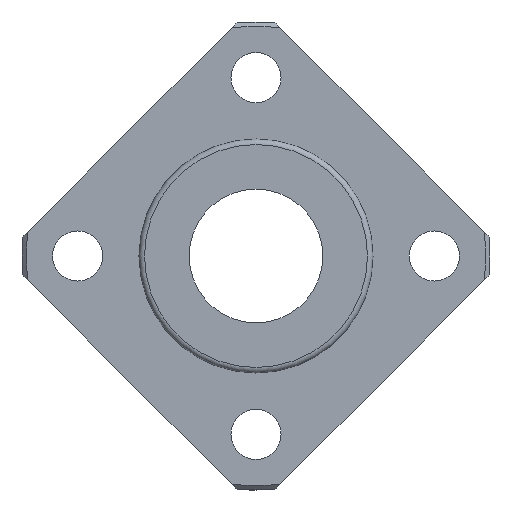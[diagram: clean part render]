
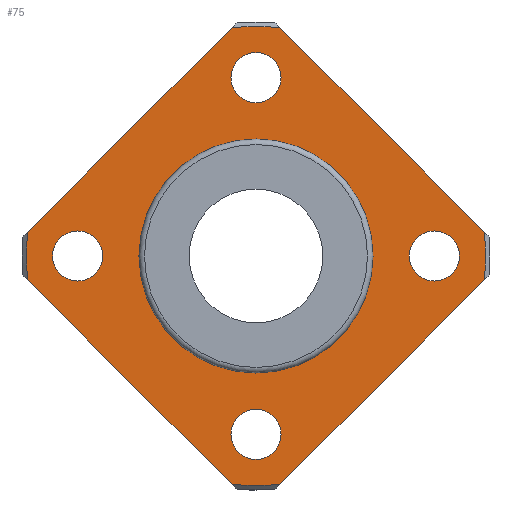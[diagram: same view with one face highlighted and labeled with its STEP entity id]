
A CAD part, left-side view. The second image highlights one B-rep face of the part: STEP entity #75.
In plain terms, the highlighted planar face has unit normal (-1, 0, 0).
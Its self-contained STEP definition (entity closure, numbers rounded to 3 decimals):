
#75=ADVANCED_FACE('',(#112,#113,#114,#115,#116,#117),#118,.T.);
#112=FACE_OUTER_BOUND('',#212,.T.);
#113=FACE_BOUND('',#213,.T.);
#114=FACE_BOUND('',#214,.T.);
#115=FACE_BOUND('',#215,.T.);
#116=FACE_BOUND('',#216,.T.);
#117=FACE_BOUND('',#217,.T.);
#118=PLANE('',#218);
#212=EDGE_LOOP('',(#312,#313,#314,#315,#316,#317,#318,#319));
#213=EDGE_LOOP('',(#320));
#214=EDGE_LOOP('',(#321));
#215=EDGE_LOOP('',(#322));
#216=EDGE_LOOP('',(#323));
#217=EDGE_LOOP('',(#324));
#218=AXIS2_PLACEMENT_3D('',#325,#326,#327);
#312=ORIENTED_EDGE('',*,*,#562,.T.);
#313=ORIENTED_EDGE('',*,*,#563,.T.);
#314=ORIENTED_EDGE('',*,*,#564,.T.);
#315=ORIENTED_EDGE('',*,*,#565,.T.);
#316=ORIENTED_EDGE('',*,*,#566,.T.);
#317=ORIENTED_EDGE('',*,*,#567,.T.);
#318=ORIENTED_EDGE('',*,*,#568,.T.);
#319=ORIENTED_EDGE('',*,*,#569,.T.);
#320=ORIENTED_EDGE('',*,*,#570,.F.);
#321=ORIENTED_EDGE('',*,*,#571,.T.);
#322=ORIENTED_EDGE('',*,*,#572,.T.);
#323=ORIENTED_EDGE('',*,*,#573,.T.);
#324=ORIENTED_EDGE('',*,*,#574,.T.);
#325=CARTESIAN_POINT('',(-6.0,15.375,0.0));
#326=DIRECTION('',(-1.0,0.0,0.));
#327=DIRECTION('',(0.,0.0,1.0));
#562=EDGE_CURVE('',#633,#634,#635,.T.);
#563=EDGE_CURVE('',#634,#636,#637,.T.);
#564=EDGE_CURVE('',#636,#638,#639,.T.);
#565=EDGE_CURVE('',#638,#640,#641,.T.);
#566=EDGE_CURVE('',#640,#642,#643,.T.);
#567=EDGE_CURVE('',#642,#644,#645,.T.);
#568=EDGE_CURVE('',#644,#646,#647,.T.);
#569=EDGE_CURVE('',#646,#633,#648,.T.);
#570=EDGE_CURVE('',#649,#649,#650,.T.);
#571=EDGE_CURVE('',#651,#651,#652,.T.);
#572=EDGE_CURVE('',#653,#653,#654,.T.);
#573=EDGE_CURVE('',#655,#655,#656,.T.);
#574=EDGE_CURVE('',#657,#657,#658,.T.);
#633=VERTEX_POINT('',#759);
#634=VERTEX_POINT('',#760);
#635=LINE('',#761,#762);
#636=VERTEX_POINT('',#763);
#637=CIRCLE('',#764,20.6);
#638=VERTEX_POINT('',#765);
#639=LINE('',#766,#767);
#640=VERTEX_POINT('',#768);
#641=CIRCLE('',#769,20.6);
#642=VERTEX_POINT('',#770);
#643=LINE('',#771,#772);
#644=VERTEX_POINT('',#773);
#645=CIRCLE('',#774,20.6);
#646=VERTEX_POINT('',#775);
#647=LINE('',#776,#777);
#648=CIRCLE('',#778,20.6);
#649=VERTEX_POINT('',#779);
#650=CIRCLE('',#780,10.15);
#651=VERTEX_POINT('',#781);
#652=CIRCLE('',#782,2.25);
#653=VERTEX_POINT('',#783);
#654=CIRCLE('',#784,2.25);
#655=VERTEX_POINT('',#785);
#656=CIRCLE('',#786,2.25);
#657=VERTEX_POINT('',#787);
#658=CIRCLE('',#788,2.25);
#759=CARTESIAN_POINT('',(-6.0,-2.139,-20.489));
#760=CARTESIAN_POINT('',(-6.0,-20.489,-2.139));
#761=CARTESIAN_POINT('',(-6.0,-12.279,-10.349));
#762=VECTOR('',#1045,1.0);
#763=CARTESIAN_POINT('',(-6.0,-20.489,2.139));
#764=AXIS2_PLACEMENT_3D('',#1046,#1047,#1048);
#765=CARTESIAN_POINT('',(-6.0,-2.139,20.489));
#766=CARTESIAN_POINT('',(-6.0,-12.279,10.349));
#767=VECTOR('',#1049,1.0);
#768=CARTESIAN_POINT('',(-6.0,2.139,20.489));
#769=AXIS2_PLACEMENT_3D('',#1050,#1051,#1052);
#770=CARTESIAN_POINT('',(-6.0,20.489,2.139));
#771=CARTESIAN_POINT('',(-6.0,19.966,2.661));
#772=VECTOR('',#1053,1.0);
#773=CARTESIAN_POINT('',(-6.0,20.489,-2.139));
#774=AXIS2_PLACEMENT_3D('',#1054,#1055,#1056);
#775=CARTESIAN_POINT('',(-6.0,2.139,-20.489));
#776=CARTESIAN_POINT('',(-6.0,19.966,-2.661));
#777=VECTOR('',#1057,1.0);
#778=AXIS2_PLACEMENT_3D('',#1058,#1059,#1060);
#779=CARTESIAN_POINT('',(-6.0,10.15,0.0));
#780=AXIS2_PLACEMENT_3D('',#1061,#1062,#1063);
#781=CARTESIAN_POINT('',(-6.0,16.0,2.25));
#782=AXIS2_PLACEMENT_3D('',#1064,#1065,#1066);
#783=CARTESIAN_POINT('',(-6.0,0.0,-13.75));
#784=AXIS2_PLACEMENT_3D('',#1067,#1068,#1069);
#785=CARTESIAN_POINT('',(-6.0,-16.0,2.25));
#786=AXIS2_PLACEMENT_3D('',#1070,#1071,#1072);
#787=CARTESIAN_POINT('',(-6.0,0.0,18.25));
#788=AXIS2_PLACEMENT_3D('',#1073,#1074,#1075);
#1045=DIRECTION('',(0.,-0.707,0.707));
#1046=CARTESIAN_POINT('',(-6.0,0.0,0.0));
#1047=DIRECTION('',(-1.0,0.0,0.));
#1048=DIRECTION('',(0.0,1.0,0.0));
#1049=DIRECTION('',(0.,0.707,0.707));
#1050=CARTESIAN_POINT('',(-6.0,0.0,0.0));
#1051=DIRECTION('',(-1.0,0.0,0.));
#1052=DIRECTION('',(0.0,1.0,0.0));
#1053=DIRECTION('',(0.,0.707,-0.707));
#1054=CARTESIAN_POINT('',(-6.0,0.0,0.0));
#1055=DIRECTION('',(-1.0,0.0,0.));
#1056=DIRECTION('',(0.0,1.0,0.0));
#1057=DIRECTION('',(0.,-0.707,-0.707));
#1058=CARTESIAN_POINT('',(-6.0,0.0,0.0));
#1059=DIRECTION('',(-1.0,0.0,0.));
#1060=DIRECTION('',(0.0,1.0,0.0));
#1061=CARTESIAN_POINT('',(-6.0,0.0,0.0));
#1062=DIRECTION('',(-1.0,0.0,0.));
#1063=DIRECTION('',(0.0,1.0,0.0));
#1064=CARTESIAN_POINT('',(-6.0,16.0,0.));
#1065=DIRECTION('',(1.0,0.0,0.));
#1066=DIRECTION('',(0.,0.0,-1.0));
#1067=CARTESIAN_POINT('',(-6.0,0.0,-16.0));
#1068=DIRECTION('',(1.0,0.0,0.));
#1069=DIRECTION('',(0.,0.0,-1.0));
#1070=CARTESIAN_POINT('',(-6.0,-16.0,0.));
#1071=DIRECTION('',(1.0,0.0,0.));
#1072=DIRECTION('',(0.,0.0,-1.0));
#1073=CARTESIAN_POINT('',(-6.0,0.0,16.0));
#1074=DIRECTION('',(1.0,0.0,0.));
#1075=DIRECTION('',(0.,0.0,-1.0));
